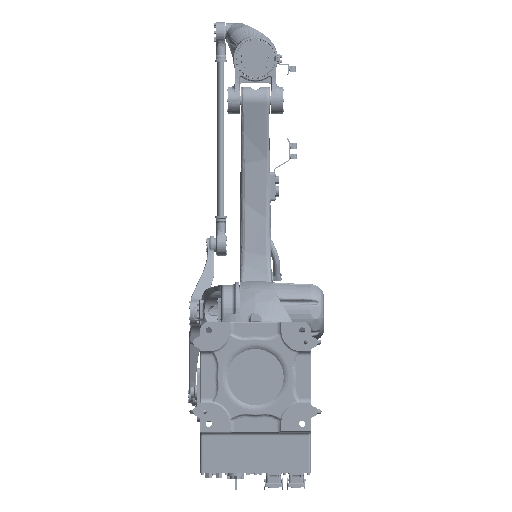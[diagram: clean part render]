
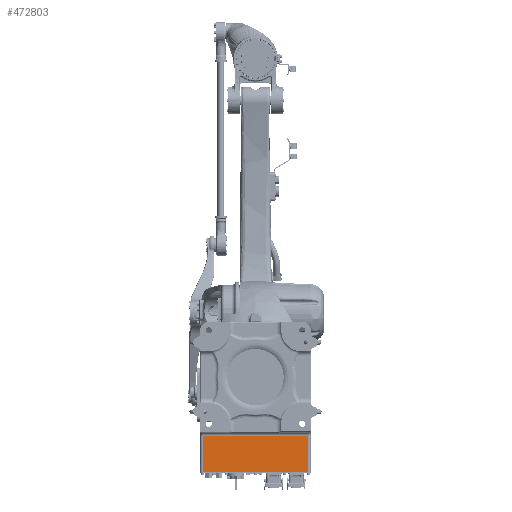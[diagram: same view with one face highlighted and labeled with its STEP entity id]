
A CAD part, front view. The second image highlights one B-rep face of the part: STEP entity #472803.
In plain terms, the highlighted planar face has unit normal (0, -1, 0).
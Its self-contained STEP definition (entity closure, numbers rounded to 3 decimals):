
#14094 = VECTOR ( 'NONE', #894216, 1000. ) ;
#15455 = ORIENTED_EDGE ( 'NONE', *, *, #555932, .F. ) ;
#40495 = CARTESIAN_POINT ( 'NONE',  ( -153., 8., 0. ) ) ;
#72696 = VECTOR ( 'NONE', #745688, 1000. ) ;
#79745 = VERTEX_POINT ( 'NONE', #282298 ) ;
#83470 = B_SPLINE_CURVE_WITH_KNOTS ( 'NONE', 3,
 ( #666004, #662950, #314782, #95230, #446317, #589673 ),
 .UNSPECIFIED., .F., .F.,
 ( 4, 2, 4 ),
 ( 0., 0.004, 0.007 ),
 .UNSPECIFIED. ) ;
#95230 = CARTESIAN_POINT ( 'NONE',  ( -65.846, 8., -169.942 ) ) ;
#99896 = AXIS2_PLACEMENT_3D ( 'NONE', #624741, #466012, #139274 ) ;
#120847 = LINE ( 'NONE', #800570, #470506 ) ;
#126163 = CARTESIAN_POINT ( 'NONE',  ( 153., 8., 0. ) ) ;
#138392 = LINE ( 'NONE', #40495, #72696 ) ;
#139274 = DIRECTION ( 'NONE',  ( 0., 0., 1. ) ) ;
#140346 = EDGE_CURVE ( 'NONE', #435800, #79745, #83470, .T. ) ;
#177452 = EDGE_CURVE ( 'NONE', #853234, #506870, #138392, .T. ) ;
#202939 = LINE ( 'NONE', #628292, #869920 ) ;
#205457 = DIRECTION ( 'NONE',  ( -1., 0., 0. ) ) ;
#209964 = DIRECTION ( 'NONE',  ( -1., 0., 0. ) ) ;
#229786 = EDGE_CURVE ( 'NONE', #726021, #435800, #202939, .T. ) ;
#282298 = CARTESIAN_POINT ( 'NONE',  ( -68.341, 8., -170. ) ) ;
#310625 = VECTOR ( 'NONE', #822401, 1000. ) ;
#314782 = CARTESIAN_POINT ( 'NONE',  ( -63.353, 8., -169.84 ) ) ;
#332518 = LINE ( 'NONE', #126163, #310625 ) ;
#341650 = LINE ( 'NONE', #750837, #14094 ) ;
#377094 = CARTESIAN_POINT ( 'NONE',  ( -153., 8., -170. ) ) ;
#381299 = CARTESIAN_POINT ( 'NONE',  ( 153., 8., -275. ) ) ;
#409855 = ORIENTED_EDGE ( 'NONE', *, *, #765689, .T. ) ;
#435800 = VERTEX_POINT ( 'NONE', #878829 ) ;
#446317 = CARTESIAN_POINT ( 'NONE',  ( -67.093, 8., -170. ) ) ;
#453463 = CARTESIAN_POINT ( 'NONE',  ( -153., 8., -275. ) ) ;
#455231 = ORIENTED_EDGE ( 'NONE', *, *, #723899, .T. ) ;
#466012 = DIRECTION ( 'NONE',  ( 0., 1., 0. ) ) ;
#470506 = VECTOR ( 'NONE', #666170, 1000. ) ;
#471449 = CARTESIAN_POINT ( 'NONE',  ( 60.858, 8., -169.798 ) ) ;
#472803 = ADVANCED_FACE ( 'NONE', ( #814240 ), #884324, .F. ) ;
#491917 = EDGE_CURVE ( 'NONE', #79745, #853234, #120847, .T. ) ;
#506870 = VERTEX_POINT ( 'NONE', #453463 ) ;
#525400 = CARTESIAN_POINT ( 'NONE',  ( 153., 8., -169.798 ) ) ;
#544195 = ORIENTED_EDGE ( 'NONE', *, *, #140346, .T. ) ;
#555932 = EDGE_CURVE ( 'NONE', #640117, #506870, #341650, .T. ) ;
#587825 = VERTEX_POINT ( 'NONE', #525400 ) ;
#589673 = CARTESIAN_POINT ( 'NONE',  ( -68.341, 8., -170. ) ) ;
#624741 = CARTESIAN_POINT ( 'NONE',  ( 0., 8., 0. ) ) ;
#628292 = CARTESIAN_POINT ( 'NONE',  ( 0., 8., -169.798 ) ) ;
#640117 = VERTEX_POINT ( 'NONE', #381299 ) ;
#660414 = VECTOR ( 'NONE', #205457, 1000. ) ;
#662950 = CARTESIAN_POINT ( 'NONE',  ( -62.106, 8., -169.798 ) ) ;
#666004 = CARTESIAN_POINT ( 'NONE',  ( -60.858, 8., -169.798 ) ) ;
#666170 = DIRECTION ( 'NONE',  ( -1., 0., 0. ) ) ;
#723899 = EDGE_CURVE ( 'NONE', #640117, #587825, #332518, .T. ) ;
#726021 = VERTEX_POINT ( 'NONE', #471449 ) ;
#736069 = ORIENTED_EDGE ( 'NONE', *, *, #229786, .T. ) ;
#745688 = DIRECTION ( 'NONE',  ( 0., 0., -1. ) ) ;
#750837 = CARTESIAN_POINT ( 'NONE',  ( 160., 8., -275. ) ) ;
#765689 = EDGE_CURVE ( 'NONE', #587825, #726021, #835681, .T. ) ;
#767341 = CARTESIAN_POINT ( 'NONE',  ( 0., 8., -169.798 ) ) ;
#774548 = ORIENTED_EDGE ( 'NONE', *, *, #177452, .T. ) ;
#800570 = CARTESIAN_POINT ( 'NONE',  ( 0., 8., -170. ) ) ;
#814240 = FACE_OUTER_BOUND ( 'NONE', #879815, .T. ) ;
#822401 = DIRECTION ( 'NONE',  ( 0., 0., 1. ) ) ;
#835681 = LINE ( 'NONE', #767341, #660414 ) ;
#853234 = VERTEX_POINT ( 'NONE', #377094 ) ;
#869920 = VECTOR ( 'NONE', #209964, 1000. ) ;
#878829 = CARTESIAN_POINT ( 'NONE',  ( -60.858, 8., -169.798 ) ) ;
#879815 = EDGE_LOOP ( 'NONE', ( #774548, #15455, #455231, #409855, #736069, #544195, #880315 ) ) ;
#880315 = ORIENTED_EDGE ( 'NONE', *, *, #491917, .T. ) ;
#884324 = PLANE ( 'NONE',  #99896 ) ;
#894216 = DIRECTION ( 'NONE',  ( -1., 0., 0. ) ) ;
